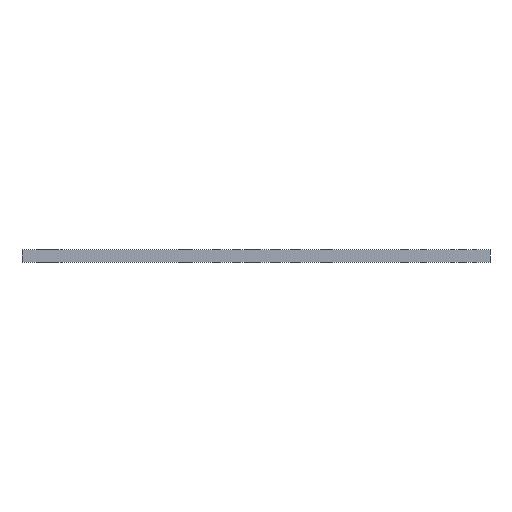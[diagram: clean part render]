
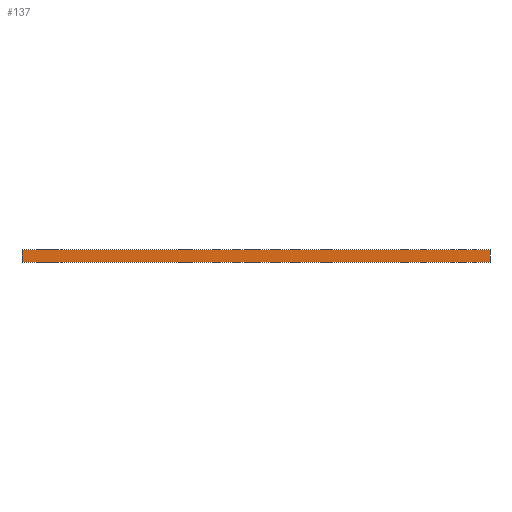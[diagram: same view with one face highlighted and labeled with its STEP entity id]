
A CAD part, front view. The second image highlights one B-rep face of the part: STEP entity #137.
In plain terms, the highlighted planar face has unit normal (0, -1, 0).
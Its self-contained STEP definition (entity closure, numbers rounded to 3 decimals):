
#21 = EDGE_CURVE('',#22,#24,#26,.T.);
#22 = VERTEX_POINT('',#23);
#23 = CARTESIAN_POINT('',(0.,0.,0.));
#24 = VERTEX_POINT('',#25);
#25 = CARTESIAN_POINT('',(0.,0.,1.6));
#26 = SURFACE_CURVE('',#27,(#31,#43),.PCURVE_S1.);
#27 = LINE('',#28,#29);
#28 = CARTESIAN_POINT('',(0.,0.,0.));
#29 = VECTOR('',#30,1.);
#30 = DIRECTION('',(0.,0.,1.));
#31 = PCURVE('',#32,#37);
#32 = PLANE('',#33);
#33 = AXIS2_PLACEMENT_3D('',#34,#35,#36);
#34 = CARTESIAN_POINT('',(0.,0.,0.));
#35 = DIRECTION('',(1.,0.,0.));
#36 = DIRECTION('',(0.,0.,1.));
#37 = DEFINITIONAL_REPRESENTATION('',(#38),#42);
#38 = LINE('',#39,#40);
#39 = CARTESIAN_POINT('',(0.,0.));
#40 = VECTOR('',#41,1.);
#41 = DIRECTION('',(1.,0.));
#42 = ( GEOMETRIC_REPRESENTATION_CONTEXT(2) 
PARAMETRIC_REPRESENTATION_CONTEXT() REPRESENTATION_CONTEXT('2D SPACE',''
  ) );
#43 = PCURVE('',#44,#49);
#44 = PLANE('',#45);
#45 = AXIS2_PLACEMENT_3D('',#46,#47,#48);
#46 = CARTESIAN_POINT('',(0.,0.,0.));
#47 = DIRECTION('',(0.,1.,0.));
#48 = DIRECTION('',(0.,0.,1.));
#49 = DEFINITIONAL_REPRESENTATION('',(#50),#54);
#50 = LINE('',#51,#52);
#51 = CARTESIAN_POINT('',(0.,0.));
#52 = VECTOR('',#53,1.);
#53 = DIRECTION('',(1.,0.));
#54 = ( GEOMETRIC_REPRESENTATION_CONTEXT(2) 
PARAMETRIC_REPRESENTATION_CONTEXT() REPRESENTATION_CONTEXT('2D SPACE',''
  ) );
#72 = PLANE('',#73);
#73 = AXIS2_PLACEMENT_3D('',#74,#75,#76);
#74 = CARTESIAN_POINT('',(0.,0.,0.));
#75 = DIRECTION('',(0.,0.,1.));
#76 = DIRECTION('',(1.,0.,0.));
#126 = PLANE('',#127);
#127 = AXIS2_PLACEMENT_3D('',#128,#129,#130);
#128 = CARTESIAN_POINT('',(0.,0.,1.6));
#129 = DIRECTION('',(0.,0.,1.));
#130 = DIRECTION('',(1.,0.,0.));
#137 = ADVANCED_FACE('',(#138),#44,.F.);
#138 = FACE_BOUND('',#139,.F.);
#139 = EDGE_LOOP('',(#140,#163,#164,#187));
#140 = ORIENTED_EDGE('',*,*,#141,.F.);
#141 = EDGE_CURVE('',#22,#142,#144,.T.);
#142 = VERTEX_POINT('',#143);
#143 = CARTESIAN_POINT('',(60.,0.,0.));
#144 = SURFACE_CURVE('',#145,(#149,#156),.PCURVE_S1.);
#145 = LINE('',#146,#147);
#146 = CARTESIAN_POINT('',(0.,0.,0.));
#147 = VECTOR('',#148,1.);
#148 = DIRECTION('',(1.,0.,0.));
#149 = PCURVE('',#44,#150);
#150 = DEFINITIONAL_REPRESENTATION('',(#151),#155);
#151 = LINE('',#152,#153);
#152 = CARTESIAN_POINT('',(0.,0.));
#153 = VECTOR('',#154,1.);
#154 = DIRECTION('',(0.,1.));
#155 = ( GEOMETRIC_REPRESENTATION_CONTEXT(2) 
PARAMETRIC_REPRESENTATION_CONTEXT() REPRESENTATION_CONTEXT('2D SPACE',''
  ) );
#156 = PCURVE('',#72,#157);
#157 = DEFINITIONAL_REPRESENTATION('',(#158),#162);
#158 = LINE('',#159,#160);
#159 = CARTESIAN_POINT('',(0.,0.));
#160 = VECTOR('',#161,1.);
#161 = DIRECTION('',(1.,0.));
#162 = ( GEOMETRIC_REPRESENTATION_CONTEXT(2) 
PARAMETRIC_REPRESENTATION_CONTEXT() REPRESENTATION_CONTEXT('2D SPACE',''
  ) );
#163 = ORIENTED_EDGE('',*,*,#21,.T.);
#164 = ORIENTED_EDGE('',*,*,#165,.T.);
#165 = EDGE_CURVE('',#24,#166,#168,.T.);
#166 = VERTEX_POINT('',#167);
#167 = CARTESIAN_POINT('',(60.,0.,1.6));
#168 = SURFACE_CURVE('',#169,(#173,#180),.PCURVE_S1.);
#169 = LINE('',#170,#171);
#170 = CARTESIAN_POINT('',(0.,0.,1.6));
#171 = VECTOR('',#172,1.);
#172 = DIRECTION('',(1.,0.,0.));
#173 = PCURVE('',#44,#174);
#174 = DEFINITIONAL_REPRESENTATION('',(#175),#179);
#175 = LINE('',#176,#177);
#176 = CARTESIAN_POINT('',(1.6,0.));
#177 = VECTOR('',#178,1.);
#178 = DIRECTION('',(0.,1.));
#179 = ( GEOMETRIC_REPRESENTATION_CONTEXT(2) 
PARAMETRIC_REPRESENTATION_CONTEXT() REPRESENTATION_CONTEXT('2D SPACE',''
  ) );
#180 = PCURVE('',#126,#181);
#181 = DEFINITIONAL_REPRESENTATION('',(#182),#186);
#182 = LINE('',#183,#184);
#183 = CARTESIAN_POINT('',(0.,0.));
#184 = VECTOR('',#185,1.);
#185 = DIRECTION('',(1.,0.));
#186 = ( GEOMETRIC_REPRESENTATION_CONTEXT(2) 
PARAMETRIC_REPRESENTATION_CONTEXT() REPRESENTATION_CONTEXT('2D SPACE',''
  ) );
#187 = ORIENTED_EDGE('',*,*,#188,.F.);
#188 = EDGE_CURVE('',#142,#166,#189,.T.);
#189 = SURFACE_CURVE('',#190,(#194,#201),.PCURVE_S1.);
#190 = LINE('',#191,#192);
#191 = CARTESIAN_POINT('',(60.,0.,0.));
#192 = VECTOR('',#193,1.);
#193 = DIRECTION('',(0.,0.,1.));
#194 = PCURVE('',#44,#195);
#195 = DEFINITIONAL_REPRESENTATION('',(#196),#200);
#196 = LINE('',#197,#198);
#197 = CARTESIAN_POINT('',(0.,60.));
#198 = VECTOR('',#199,1.);
#199 = DIRECTION('',(1.,0.));
#200 = ( GEOMETRIC_REPRESENTATION_CONTEXT(2) 
PARAMETRIC_REPRESENTATION_CONTEXT() REPRESENTATION_CONTEXT('2D SPACE',''
  ) );
#201 = PCURVE('',#202,#207);
#202 = PLANE('',#203);
#203 = AXIS2_PLACEMENT_3D('',#204,#205,#206);
#204 = CARTESIAN_POINT('',(60.,0.,0.));
#205 = DIRECTION('',(1.,0.,0.));
#206 = DIRECTION('',(0.,0.,1.));
#207 = DEFINITIONAL_REPRESENTATION('',(#208),#212);
#208 = LINE('',#209,#210);
#209 = CARTESIAN_POINT('',(0.,0.));
#210 = VECTOR('',#211,1.);
#211 = DIRECTION('',(1.,0.));
#212 = ( GEOMETRIC_REPRESENTATION_CONTEXT(2) 
PARAMETRIC_REPRESENTATION_CONTEXT() REPRESENTATION_CONTEXT('2D SPACE',''
  ) );
